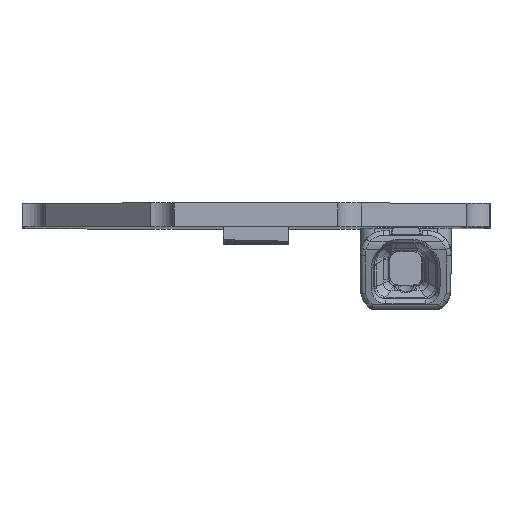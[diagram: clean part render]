
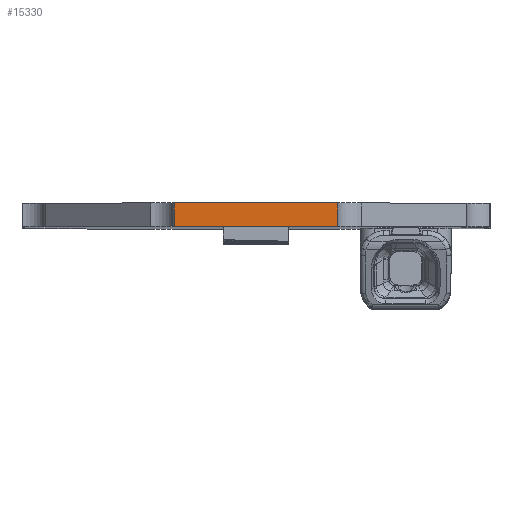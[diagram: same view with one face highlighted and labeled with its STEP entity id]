
A CAD part, top view. The second image highlights one B-rep face of the part: STEP entity #15330.
In plain terms, the highlighted planar face has unit normal (0, 0, 1).
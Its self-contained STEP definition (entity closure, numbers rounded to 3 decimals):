
#1136=ORIENTED_EDGE('',*,*,#4347,.F.);
#1137=ORIENTED_EDGE('',*,*,#4421,.F.);
#1138=ORIENTED_EDGE('',*,*,#4389,.T.);
#1139=ORIENTED_EDGE('',*,*,#4420,.T.);
#4347=EDGE_CURVE('',#6007,#6008,#7042,.T.);
#4389=EDGE_CURVE('',#6050,#6049,#7069,.T.);
#4420=EDGE_CURVE('',#6049,#6008,#7092,.T.);
#4421=EDGE_CURVE('',#6050,#6007,#7093,.T.);
#6007=VERTEX_POINT('',#19553);
#6008=VERTEX_POINT('',#19555);
#6049=VERTEX_POINT('',#19638);
#6050=VERTEX_POINT('',#19640);
#7042=LINE('',#19554,#8066);
#7069=LINE('',#19639,#8093);
#7092=LINE('',#19700,#8116);
#7093=LINE('',#19702,#8117);
#8066=VECTOR('',#16863,1000.);
#8093=VECTOR('',#16922,1000.);
#8116=VECTOR('',#16985,1000.);
#8117=VECTOR('',#16988,1000.);
#9059=EDGE_LOOP('',(#1136,#1137,#1138,#1139));
#9749=FACE_BOUND('',#9059,.T.);
#10421=PLANE('',#16021);
#15330=ADVANCED_FACE('',(#9749),#10421,.T.);
#16021=AXIS2_PLACEMENT_3D('',#19701,#16986,#16987);
#16863=DIRECTION('',(-1.,0.,0.));
#16922=DIRECTION('',(-1.,0.,0.));
#16985=DIRECTION('',(0.,-1.,0.));
#16986=DIRECTION('',(0.,0.,1.));
#16987=DIRECTION('',(1.,0.,0.));
#16988=DIRECTION('',(0.,-1.,0.));
#19553=CARTESIAN_POINT('',(3.5,0.,34.8));
#19554=CARTESIAN_POINT('',(3.5,0.,34.8));
#19555=CARTESIAN_POINT('',(-3.5,0.,34.8));
#19638=CARTESIAN_POINT('',(-3.5,1.,34.8));
#19639=CARTESIAN_POINT('',(3.5,1.,34.8));
#19640=CARTESIAN_POINT('',(3.5,1.,34.8));
#19700=CARTESIAN_POINT('',(-3.5,1.,34.8));
#19701=CARTESIAN_POINT('',(3.5,1.,34.8));
#19702=CARTESIAN_POINT('',(3.5,1.,34.8));
